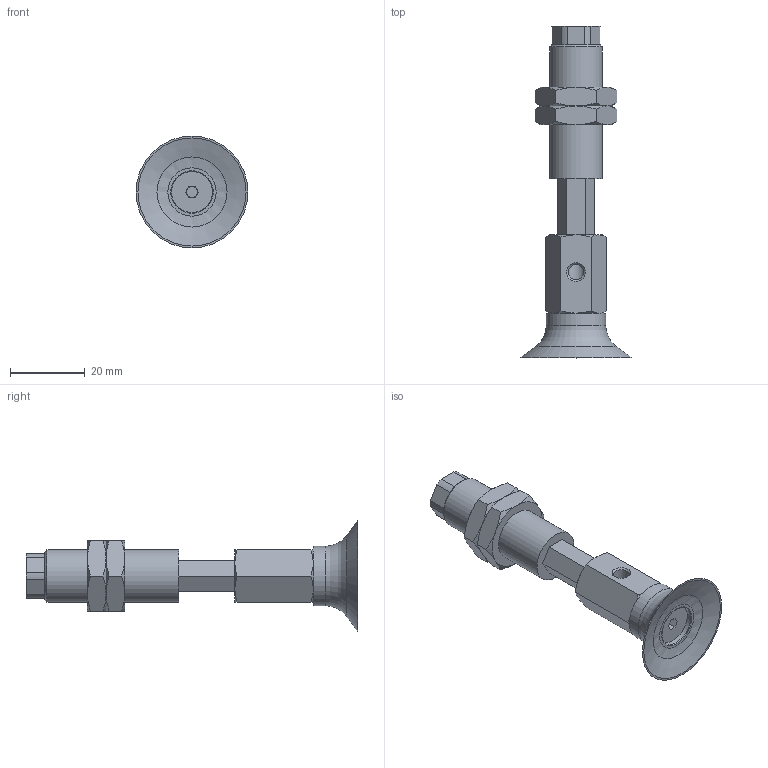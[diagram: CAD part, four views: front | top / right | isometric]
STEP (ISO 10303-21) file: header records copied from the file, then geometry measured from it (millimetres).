
FILE_DESCRIPTION(('STEP AP203'),'1');
FILE_NAME('.stp','2025-04-10T07:44:53',(' '),(' '),'Spatial InterOp 3D',' ',' ');
FILE_SCHEMA(('CONFIG_CONTROL_DESIGN'));
Length unit declared in the file: millimetre
Products named in the file (7): BNABPFYH-30-15-※; TN-PF-30-M6-NAPF; CONNECTOR-H-30-15; Nut-30-15-h; NAPFTH-30-15-FBODY; NAPFTH-30-15-MBODY; BPFG-30-※
Assembly tree (7 placements, depth 2):
  BNABPFYH-30-15-※
    TN-PF-30-M6-NAPF
    CONNECTOR-H-30-15
    Nut-30-15-h  x2
    NAPFTH-30-15-FBODY
    NAPFTH-30-15-MBODY
    BPFG-30-※
Bounding box: 30 x 89 x 30 mm (x, y, z)
Volume: 14466.9 mm3; surface area: 11315.1 mm2
Topology: 7 solids, 7 shells, 155 faces, 334 edges, 203 vertices
Faces by surface type: plane 78, cone 51, cylinder 20, torus 5, bspline 1
Full cylindrical faces by diameter (mm): 3 x2, 4.134 x2, 4.917 x1, 5 x1, 6 x2, 11 x2, 12.917 x2, 14 x1, 16 x1
Entity records: 4063 total; most frequent: CARTESIAN_POINT 986, DIRECTION 566, ORIENTED_EDGE 506, EDGE_CURVE 253, AXIS2_PLACEMENT_3D 225, EDGE_LOOP 184, VERTEX_POINT 173, FACE_OUTER_BOUND 151
